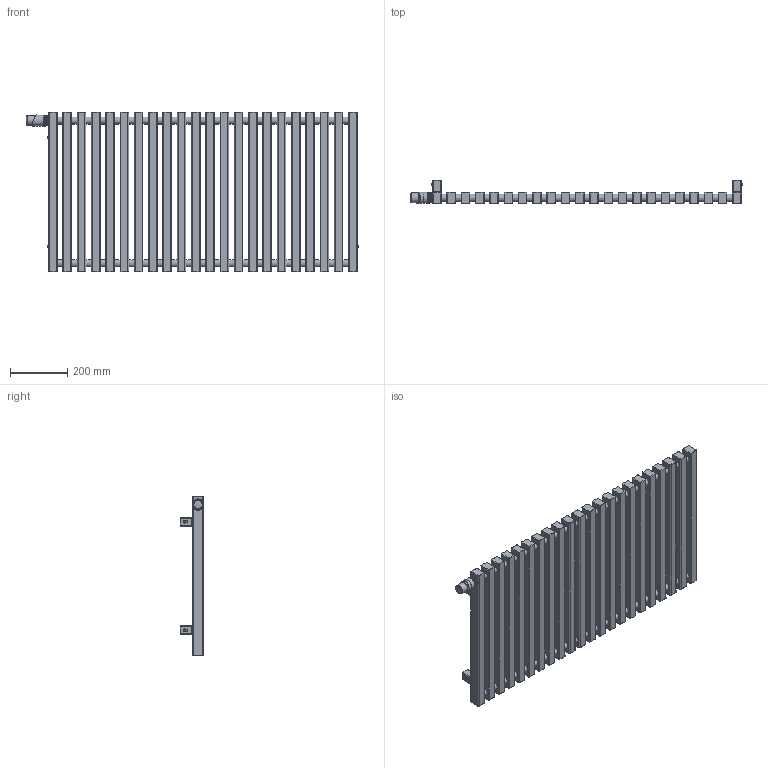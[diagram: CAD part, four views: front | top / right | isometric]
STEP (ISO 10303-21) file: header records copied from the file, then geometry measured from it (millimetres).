
FILE_DESCRIPTION((''),'2;1');
FILE_NAME('Z:\R\G\P\RGP029 - Grzejnik Triga ( ZET)\Work\Inventor\Triga v1.1\Marketing\AutoCad 3D\G-TR-XX-MK-XX-56-10-VL.stp','2012-07-26T13:05:31',('DawPi'),(''),'Autodesk Inventor 2012','Autodesk Inventor 2012','');
FILE_SCHEMA(('AUTOMOTIVE_DESIGN { 1 0 10303 214 1 1 1 1 }'));
Length unit declared in the file: millimetre
Products named in the file (4): G-TR-XX-MK-XX-56-10-VL; MMT42; A40300A
Assembly tree (6 placements, depth 2):
  G-TR-XX-MK-XX-56-10-VL
    G-TR-XX-MK-XX-56-10-VL
    MMT42  x4
    A40300A
Bounding box: 1162.26 x 82 x 560 mm (x, y, z)
Volume: 15314474 mm3; surface area: 1788404 mm2
Topology: 6 solids, 7 shells, 881 faces, 1950 edges, 1167 vertices
Faces by surface type: cylinder 385, plane 279, bspline 177, cone 25, torus 14, sphere 1
Full cylindrical faces by diameter (mm): 4 x1, 4.134 x4, 4.509 x4, 5 x1, 10 x5, 11.445 x1, 12 x4, 18.631 x2, 25 x42, 26.211 x1, 28 x1, 30 x1, 31 x1, 33.8 x1, 34 x2, 35 x3, 36 x4, 38 x3
Entity records: 33596 total; most frequent: CARTESIAN_POINT 17434, DIRECTION 3582, ORIENTED_EDGE 3060, EDGE_CURVE 1530, AXIS2_PLACEMENT_3D 1477, VERTEX_POINT 952, EDGE_LOOP 952, CIRCLE 896
